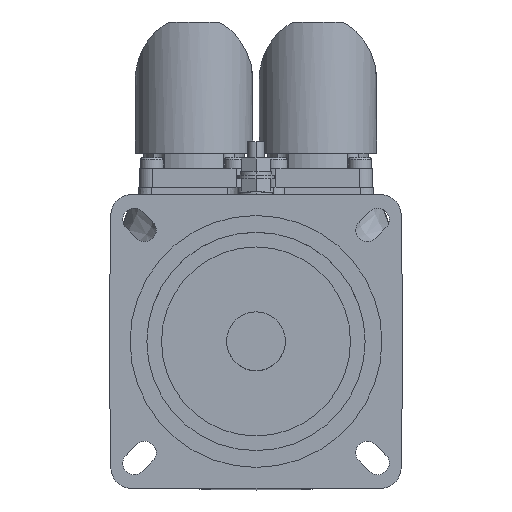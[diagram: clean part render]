
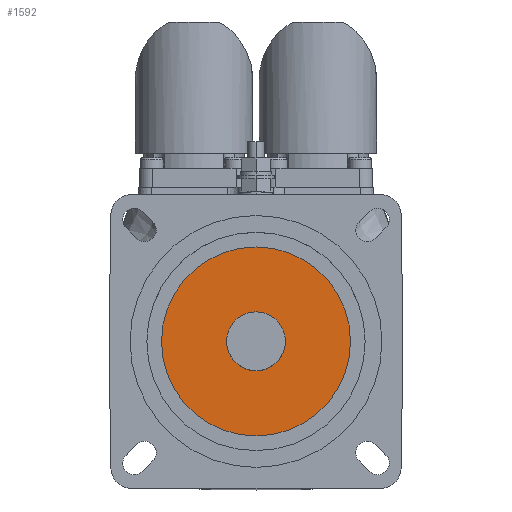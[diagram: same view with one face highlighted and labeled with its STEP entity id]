
A CAD part, top view. The second image highlights one B-rep face of the part: STEP entity #1592.
In plain terms, the highlighted planar face has unit normal (0, 0, 1).
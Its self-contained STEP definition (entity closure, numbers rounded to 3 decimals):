
#574 = EDGE_LOOP ( 'NONE', ( #10097, #10098 ) ) ;
#874 = EDGE_CURVE ( 'NONE', #14409, #14621, #5338, .T. ) ;
#875 = EDGE_CURVE ( 'NONE', #14457, #14653, #5340, .T. ) ;
#1089 = EDGE_CURVE ( 'NONE', #14621, #14409, #5629, .T. ) ;
#1090 = EDGE_CURVE ( 'NONE', #14653, #14457, #5631, .T. ) ;
#1592 = ADVANCED_FACE ( 'NONE', ( #6246, #6250 ), #9048, .T. ) ;
#3340 = AXIS2_PLACEMENT_3D ( 'NONE', #4587, #4589, #4590 ) ;
#3342 = AXIS2_PLACEMENT_3D ( 'NONE', #4580, #4591, #4592 ) ;
#3408 = AXIS2_PLACEMENT_3D ( 'NONE', #6474, #6476, #6477 ) ;
#3412 = AXIS2_PLACEMENT_3D ( 'NONE', #6471, #6479, #6480 ) ;
#3650 = AXIS2_PLACEMENT_3D ( 'NONE', #9047, #9049, #9050 ) ;
#4580 = CARTESIAN_POINT ( 'NONE',  ( 0., 0., 7.5 ) ) ;
#4587 = CARTESIAN_POINT ( 'NONE',  ( 0., 0., 7.5 ) ) ;
#4589 = DIRECTION ( 'NONE',  ( 0., 0., 1. ) ) ;
#4590 = DIRECTION ( 'NONE',  ( 1., 0., 0. ) ) ;
#4591 = DIRECTION ( 'NONE',  ( 0., 0., 1. ) ) ;
#4592 = DIRECTION ( 'NONE',  ( 1., 0., 0. ) ) ;
#5338 = CIRCLE ( 'NONE', #3340, 7. ) ;
#5340 = CIRCLE ( 'NONE', #3342, 22.5 ) ;
#5629 = CIRCLE ( 'NONE', #3408, 7. ) ;
#5631 = CIRCLE ( 'NONE', #3412, 22.5 ) ;
#6246 = FACE_BOUND ( 'NONE', #14791, .T. ) ;
#6250 = FACE_OUTER_BOUND ( 'NONE', #574, .T. ) ;
#6471 = CARTESIAN_POINT ( 'NONE',  ( 0., 0., 7.5 ) ) ;
#6474 = CARTESIAN_POINT ( 'NONE',  ( 0., 0., 7.5 ) ) ;
#6476 = DIRECTION ( 'NONE',  ( 0., 0., 1. ) ) ;
#6477 = DIRECTION ( 'NONE',  ( 1., 0., 0. ) ) ;
#6479 = DIRECTION ( 'NONE',  ( 0., 0., 1. ) ) ;
#6480 = DIRECTION ( 'NONE',  ( 1., 0., 0. ) ) ;
#9047 = CARTESIAN_POINT ( 'NONE',  ( 0., 22.5, 7.5 ) ) ;
#9048 = PLANE ( 'NONE',  #3650 ) ;
#9049 = DIRECTION ( 'NONE',  ( 0., 0., 1. ) ) ;
#9050 = DIRECTION ( 'NONE',  ( 1., 0., 0. ) ) ;
#10095 = ORIENTED_EDGE ( 'NONE', *, *, #874, .F. ) ;
#10096 = ORIENTED_EDGE ( 'NONE', *, *, #1089, .F. ) ;
#10097 = ORIENTED_EDGE ( 'NONE', *, *, #875, .T. ) ;
#10098 = ORIENTED_EDGE ( 'NONE', *, *, #1090, .T. ) ;
#13880 = CARTESIAN_POINT ( 'NONE',  ( 7., 0., 7.5 ) ) ;
#13928 = CARTESIAN_POINT ( 'NONE',  ( 22.5, 0., 7.5 ) ) ;
#14092 = CARTESIAN_POINT ( 'NONE',  ( -7., 0., 7.5 ) ) ;
#14124 = CARTESIAN_POINT ( 'NONE',  ( -22.5, 0., 7.5 ) ) ;
#14409 = VERTEX_POINT ( 'NONE', #13880 ) ;
#14457 = VERTEX_POINT ( 'NONE', #13928 ) ;
#14621 = VERTEX_POINT ( 'NONE', #14092 ) ;
#14653 = VERTEX_POINT ( 'NONE', #14124 ) ;
#14791 = EDGE_LOOP ( 'NONE', ( #10095, #10096 ) ) ;
